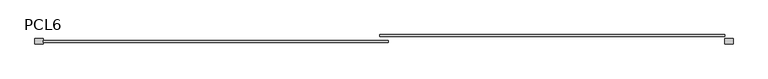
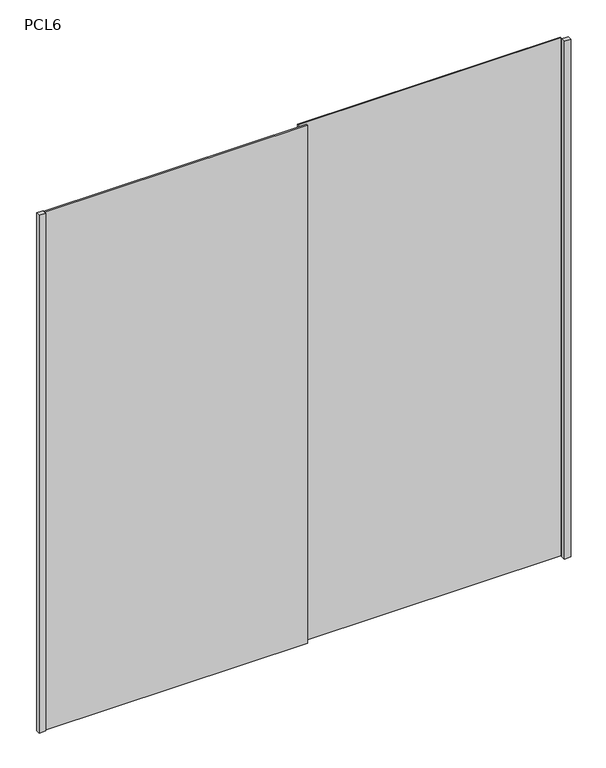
"""IFC4 building model written with IfcOpenShell, lengths in millimetres: furniture geometry, Puerta Closet corre 2 hojas : PCL6."""

import ifcopenshell
import ifcopenshell.guid

model = None  # the IFC model being written
_history = None  # IfcOwnerHistory: only IFC2X3 demands one
_inside = {}  # id of a spatial element -> (the spatial element, [elements in it])
_under = {}  # id of a project, library or spatial element -> (it, [spatial elements below it])
_declared = {}  # id of a project -> (the project, [libraries it declares])
_typed = {}  # id of a type object -> (the type object, [elements of that type])
_made_of = {}  # id of a material, layer set ... -> (it, [elements and type objects made of it])


def new_model(schema):
    """Start an empty IFC model of exactly this schema.

    Asked for "IFC4X3", IfcOpenShell would pick the latest addendum, in which some entities
    have other attributes; the version numbers below select the first issue.
    IFC2X3 requires an IfcOwnerHistory on every rooted entity: one is made here for all.
    """
    global model, _history
    if schema == "IFC4X3":
        model = ifcopenshell.file(schema_version=(4, 3, 0, 0))
    else:
        model = ifcopenshell.file(schema=schema)
    _inside.clear()
    _under.clear()
    _declared.clear()
    _typed.clear()
    _made_of.clear()
    _history = None
    if model.schema == "IFC2X3":
        org = make("IfcOrganization", Name="unknown")
        user = make(
            "IfcPersonAndOrganization",
            ThePerson=make("IfcPerson", FamilyName="unknown"),
            TheOrganization=org,
        )
        app = make(
            "IfcApplication",
            ApplicationDeveloper=org,
            Version="unknown",
            ApplicationFullName="unknown",
            ApplicationIdentifier="unknown",
        )
        _history = make(
            "IfcOwnerHistory",
            OwningUser=user,
            OwningApplication=app,
            ChangeAction="ADDED",
            CreationDate=0,
        )
    return model


def make(cls, **values):
    """One entity of the class cls with the attributes given. An attribute that is None is left unset."""
    return model.create_entity(
        cls, **{name: value for name, value in values.items() if value is not None}
    )


def rooted(cls, **values):
    """An entity with a GlobalId (a new one), such as an element, a storey or a relation."""
    return make(cls, GlobalId=ifcopenshell.guid.new(), OwnerHistory=_history, **values)


def si_unit(unit_type, name, prefix=None):
    """IfcSIUnit, for example si_unit("LENGTHUNIT", "METRE", prefix="MILLI")."""
    return make("IfcSIUnit", UnitType=unit_type, Prefix=prefix, Name=name)


def assignment(units):
    """IfcUnitAssignment: the units of a project."""
    return None if units is None else make("IfcUnitAssignment", Units=units)


def point(xyz):
    """IfcCartesianPoint."""
    return None if xyz is None else make("IfcCartesianPoint", Coordinates=xyz)


def direction(xyz):
    """IfcDirection."""
    return None if xyz is None else make("IfcDirection", DirectionRatios=xyz)


def frame(location, z_axis=None, x_axis=None):
    """IfcAxis2Placement3D, a coordinate frame: its origin and axes. An axis left out is left unset."""
    return make(
        "IfcAxis2Placement3D",
        Location=point(location),
        Axis=direction(z_axis),
        RefDirection=direction(x_axis),
    )


def origin():
    """The frame at (0, 0, 0) with its axes left unset."""
    return frame((0.0, 0.0, 0.0))


def origin_with_axes():
    """The frame at (0, 0, 0) with the z axis (0, 0, 1) and the x axis (1, 0, 0) written out."""
    return frame((0.0, 0.0, 0.0), z_axis=(0.0, 0.0, 1.0), x_axis=(1.0, 0.0, 0.0))


def place(relative_to, where):
    """IfcLocalPlacement: puts the frame where relative to a parent placement (None: the world)."""
    return make(
        "IfcLocalPlacement", PlacementRelTo=relative_to, RelativePlacement=where
    )


def context(
    kind, dimensions, precision=None, world=None, true_north=None, identifier=None
):
    """IfcGeometricRepresentationContext, for example the 3D "Model" context."""
    return make(
        "IfcGeometricRepresentationContext",
        ContextIdentifier=identifier,
        ContextType=kind,
        CoordinateSpaceDimension=dimensions,
        Precision=precision,
        WorldCoordinateSystem=world,
        TrueNorth=true_north,
    )


def project(units=None, contexts=None):
    """IfcProject with its units and contexts."""
    return rooted(
        "IfcProject",
        Name="project",
        RepresentationContexts=contexts,
        UnitsInContext=assignment(units),
    )


def spatial(cls, under=None, at=None, **own):
    """A site, building, storey or space (cls), placed at a placement, below another one or the project."""
    s = rooted(cls, ObjectPlacement=at, **own)
    if under is not None:
        _under.setdefault(under.id(), (under, []))[1].append(s)
    return s


def polyline(points):
    """IfcPolyline through the points."""
    return make("IfcPolyline", Points=[point(p) for p in points])


def outline(outer, holes=None, kind="AREA"):
    """IfcArbitraryClosedProfileDef: a profile drawn as a closed curve; with holes, ...WithVoids."""
    if holes is None:
        return make("IfcArbitraryClosedProfileDef", ProfileType=kind, OuterCurve=outer)
    return make(
        "IfcArbitraryProfileDefWithVoids",
        ProfileType=kind,
        OuterCurve=outer,
        InnerCurves=holes,
    )


def extrude(swept, where, along, depth):
    """IfcExtrudedAreaSolid: the profile swept, set in the frame where, extruded along a direction by depth."""
    return make(
        "IfcExtrudedAreaSolid",
        SweptArea=swept,
        Position=where,
        ExtrudedDirection=direction(along),
        Depth=depth,
    )


def shape(context_of_items, identifier, shape_type, items):
    """IfcShapeRepresentation: the items that make up one representation, for example the "Body"."""
    return make(
        "IfcShapeRepresentation",
        ContextOfItems=context_of_items,
        RepresentationIdentifier=identifier,
        RepresentationType=shape_type,
        Items=items,
    )


def source(mapping_origin, context_of_items, identifier, shape_type, items):
    """IfcRepresentationMap: a shape defined once, which mapped items show again and again."""
    return make(
        "IfcRepresentationMap",
        MappingOrigin=mapping_origin,
        MappedRepresentation=shape(context_of_items, identifier, shape_type, items),
    )


def transform(
    local_origin,
    x_axis=None,
    y_axis=None,
    z_axis=None,
    scale=None,
    scale2=None,
    scale3=None,
    uniform=True,
):
    """IfcCartesianTransformationOperator3D, or its non-uniform kind. x_axis, y_axis, z_axis: its Axis1, 2, 3."""
    if uniform:
        return make(
            "IfcCartesianTransformationOperator3D",
            Axis1=direction(x_axis),
            Axis2=direction(y_axis),
            LocalOrigin=point(local_origin),
            Scale=scale,
            Axis3=direction(z_axis),
        )
    return make(
        "IfcCartesianTransformationOperator3DnonUniform",
        Axis1=direction(x_axis),
        Axis2=direction(y_axis),
        LocalOrigin=point(local_origin),
        Scale=scale,
        Axis3=direction(z_axis),
        Scale2=scale2,
        Scale3=scale3,
    )


def mapped(mapping_source, mapping_target):
    """IfcMappedItem: shows the shape of a source again, moved by a transform."""
    return make(
        "IfcMappedItem", MappingSource=mapping_source, MappingTarget=mapping_target
    )


def made_of(thing, what):
    """Note that an element or type object is made of a material, layer set ...; save() writes the relation."""
    if what is not None:
        _made_of.setdefault(what.id(), (what, []))[1].append(thing)
    return thing


def element(
    cls,
    number,
    at=None,
    inside=None,
    cuts=None,
    type_object=None,
    material=None,
    context=None,
    identifier="Body",
    shape_type=None,
    held_by="IfcProductDefinitionShape",
    body=None,
    shapes=None,
    **own,
):
    """One element of the class cls, such as IfcWall. Its Tag is "e" and its number.

    at: its placement. inside: the storey or other place that contains it. cuts: it is an
    opening in that element (IfcRelVoidsElement). A single representation is given by context,
    identifier, shape_type and body (its items); several are given by shapes. held_by: the class
    of the entity that holds the representations. save() writes the other relations.
    """
    e = rooted(cls, Tag="e%d" % number, ObjectPlacement=at, **own)
    if body is not None:
        shapes = [shape(context, identifier, shape_type, body)]
    if shapes is not None:
        e.Representation = make(held_by, Representations=shapes)
    if inside is not None:
        _inside.setdefault(inside.id(), (inside, []))[1].append(e)
    if cuts is not None:
        rooted(
            "IfcRelVoidsElement", RelatingBuildingElement=cuts, RelatedOpeningElement=e
        )
    if type_object is not None:
        _typed.setdefault(type_object.id(), (type_object, []))[1].append(e)
    return made_of(e, material)


def aggregate(whole, parts):
    """IfcRelAggregates: a whole, such as a stair, and the parts it consists of."""
    return rooted("IfcRelAggregates", RelatingObject=whole, RelatedObjects=parts)


def save(model, path):
    """Write the relations noted so far, then the file.

    IfcRelAggregates (storeys below a building ...), IfcRelContainedInSpatialStructure (elements
    in a storey), IfcRelDefinesByType, IfcRelAssociatesMaterial and IfcRelDeclares: one each for
    every whole, place, type object, material and project.
    """
    for whole, parts in _under.values():
        aggregate(whole, parts)
    for where, things in _inside.values():
        rooted(
            "IfcRelContainedInSpatialStructure",
            RelatedElements=things,
            RelatingStructure=where,
        )
    for kind, things in _typed.values():
        rooted("IfcRelDefinesByType", RelatedObjects=things, RelatingType=kind)
    for what, things in _made_of.values():
        rooted("IfcRelAssociatesMaterial", RelatedObjects=things, RelatingMaterial=what)
    for by, libraries in _declared.values():
        rooted("IfcRelDeclares", RelatingContext=by, RelatedDefinitions=libraries)
    model.write(path)


def pcl6_48820e99(model_context):
    return source(origin(), model_context, "Body", "SweptSolid", [
        extrude(outline(polyline([(685.0, 80.0), (655.0, 80.0), (655.0, 100.0), (685.0, 100.0), (685.0, 80.0)])), origin_with_axes(), (0.0, 0.0, 1.0), 2520.0),
        extrude(outline(polyline([(655.0, 106.6666667), (-555.0, 106.6666667), (-555.0, 113.3333333), (655.0, 113.3333333), (655.0, 106.6666667)])), origin_with_axes(), (0.0, 0.0, 1.0), 2520.0),
        extrude(outline(polyline([(-525.0, 86.6666667), (-1735.0, 86.6666667), (-1735.0, 93.3333333), (-525.0, 93.3333333), (-525.0, 86.6666667)])), origin_with_axes(), (0.0, 0.0, 1.0), 2520.0),
        extrude(outline(polyline([(-1765.0, 80.0), (-1765.0, 100.0), (-1735.0, 100.0), (-1735.0, 80.0), (-1765.0, 80.0)])), origin_with_axes(), (0.0, 0.0, 1.0), 2520.0),
    ])


if __name__ == "__main__":
    model = new_model("IFC4")
    model_context = context("Model", 3, world=origin())
    ifc_project = project(units=[si_unit("LENGTHUNIT", "METRE", prefix="MILLI")], contexts=[model_context])
    site = spatial("IfcSite", under=ifc_project)
    building = spatial("IfcBuilding", under=site)
    placement = place(None, origin())
    pcl6_shape = pcl6_48820e99(model_context)
    element("IfcFurniture", 1, ObjectType="Puerta Closet corre 2 hojas : PCL6", at=placement, inside=building, context=model_context, shape_type="MappedRepresentation", body=[
        mapped(pcl6_shape, transform((0.0, 0.0, 0.0), x_axis=(1.0, 0.0, 0.0), y_axis=(0.0, 1.0, 0.0), z_axis=(0.0, 0.0, 1.0))),
    ])
    save(model, "model.ifc")
